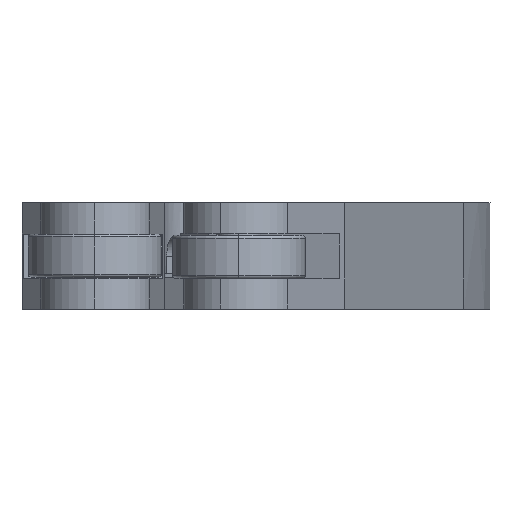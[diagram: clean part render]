
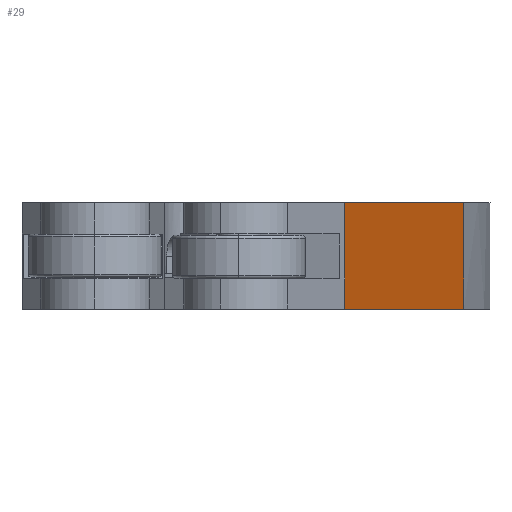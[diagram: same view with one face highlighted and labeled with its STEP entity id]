
A CAD part, left-side view. The second image highlights one B-rep face of the part: STEP entity #29.
In plain terms, the highlighted planar face has unit normal (-0.337, -0.941, 0) as drawn and (0, 1, 0) by its records, which use the part's own axes.
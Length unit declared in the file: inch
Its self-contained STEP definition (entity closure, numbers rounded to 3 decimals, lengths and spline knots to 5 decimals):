
#25 = ORIENTED_EDGE ( 'NONE', *, *, #778, .F. ) ;
#29 = ADVANCED_FACE ( 'NONE', ( #1166 ), #1129, .F. ) ;
#31 = EDGE_LOOP ( 'NONE', ( #25, #38, #50, #42 ) ) ;
#38 = ORIENTED_EDGE ( 'NONE', *, *, #788, .F. ) ;
#39 = EDGE_CURVE ( 'NONE', #872, #780, #1210, .T. ) ;
#42 = ORIENTED_EDGE ( 'NONE', *, *, #39, .T. ) ;
#50 = ORIENTED_EDGE ( 'NONE', *, *, #901, .T. ) ;
#778 = EDGE_CURVE ( 'NONE', #795, #780, #2344, .T. ) ;
#780 = VERTEX_POINT ( 'NONE', #2346 ) ;
#788 = EDGE_CURVE ( 'NONE', #793, #795, #1054, .T. ) ;
#793 = VERTEX_POINT ( 'NONE', #2375 ) ;
#795 = VERTEX_POINT ( 'NONE', #2365 ) ;
#872 = VERTEX_POINT ( 'NONE', #2446 ) ;
#901 = EDGE_CURVE ( 'NONE', #793, #872, #2559, .T. ) ;
#1053 = CARTESIAN_POINT ( 'NONE',  ( 0.00175, 0.642, 0.3 ) ) ;
#1054 = LINE ( 'NONE', #1053, #1070 ) ;
#1070 = VECTOR ( 'NONE', #1341, 39.37008 ) ;
#1129 = PLANE ( 'NONE',  #1142 ) ;
#1142 = AXIS2_PLACEMENT_3D ( 'NONE', #1162, #1161, #1160 ) ;
#1160 = DIRECTION ( 'NONE',  ( -1., 0., 0. ) ) ;
#1161 = DIRECTION ( 'NONE',  ( 0., -1., 0. ) ) ;
#1162 = CARTESIAN_POINT ( 'NONE',  ( 0.00175, 0.642, 0.3 ) ) ;
#1166 = FACE_OUTER_BOUND ( 'NONE', #31, .T. ) ;
#1207 = DIRECTION ( 'NONE',  ( 0., 0., -1. ) ) ;
#1208 = VECTOR ( 'NONE', #1207, 39.37008 ) ;
#1209 = CARTESIAN_POINT ( 'NONE',  ( 1., 0.642, 0.3 ) ) ;
#1210 = LINE ( 'NONE', #1209, #1208 ) ;
#1341 = DIRECTION ( 'NONE',  ( 0., 0., -1. ) ) ;
#2336 = VECTOR ( 'NONE', #2342, 39.37008 ) ;
#2342 = DIRECTION ( 'NONE',  ( 1., 0., 0. ) ) ;
#2343 = CARTESIAN_POINT ( 'NONE',  ( 0.00175, 0.642, 0. ) ) ;
#2344 = LINE ( 'NONE', #2343, #2336 ) ;
#2346 = CARTESIAN_POINT ( 'NONE',  ( 1., 0.642, 0. ) ) ;
#2365 = CARTESIAN_POINT ( 'NONE',  ( 0.00175, 0.642, 0. ) ) ;
#2375 = CARTESIAN_POINT ( 'NONE',  ( 0.00175, 0.642, 0.3 ) ) ;
#2446 = CARTESIAN_POINT ( 'NONE',  ( 1., 0.642, 0.3 ) ) ;
#2545 = DIRECTION ( 'NONE',  ( 1., 0., 0. ) ) ;
#2546 = VECTOR ( 'NONE', #2545, 39.37008 ) ;
#2547 = CARTESIAN_POINT ( 'NONE',  ( 0.00175, 0.642, 0.3 ) ) ;
#2559 = LINE ( 'NONE', #2547, #2546 ) ;
